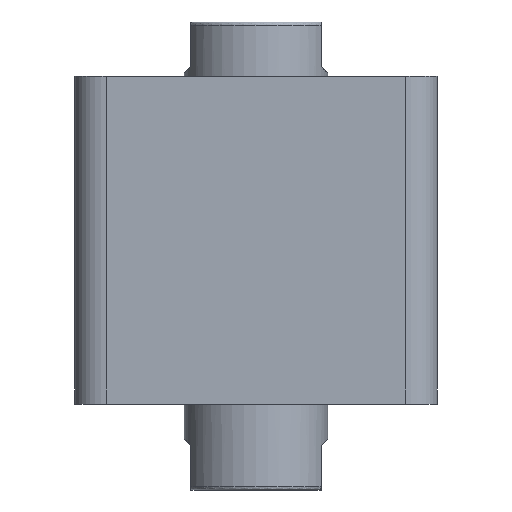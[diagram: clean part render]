
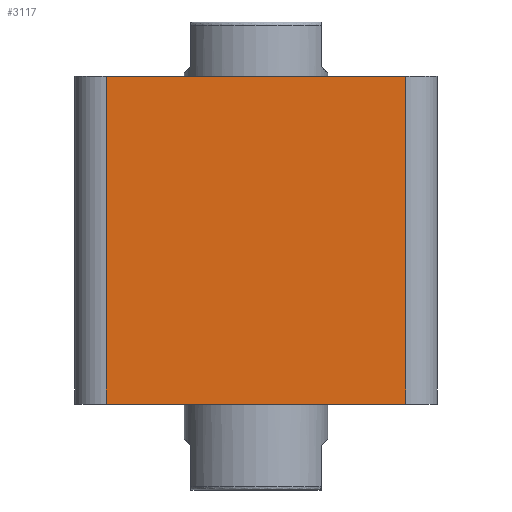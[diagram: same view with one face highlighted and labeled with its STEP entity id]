
A CAD part, front view. The second image highlights one B-rep face of the part: STEP entity #3117.
In plain terms, the highlighted planar face has unit normal (0, -1, 0).
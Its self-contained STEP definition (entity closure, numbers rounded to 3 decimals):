
#149 = EDGE_CURVE ( 'NONE', #1960, #1969, #2013, .T. ) ;
#150 = EDGE_CURVE ( 'NONE', #1969, #1957, #2014, .T. ) ;
#151 = EDGE_CURVE ( 'NONE', #1951, #1957, #2018, .T. ) ;
#152 = EDGE_CURVE ( 'NONE', #1951, #1960, #2020, .T. ) ;
#200 = CARTESIAN_POINT ( 'NONE',  ( -57., -57., 103. ) ) ;
#202 = PLANE ( 'NONE',  #1466 ) ;
#204 = DIRECTION ( 'NONE',  ( 0., 1., 0. ) ) ;
#205 = DIRECTION ( 'NONE',  ( 0., 0., 1. ) ) ;
#641 = CARTESIAN_POINT ( 'NONE',  ( -47., -57., 103. ) ) ;
#650 = CARTESIAN_POINT ( 'NONE',  ( 47., -57., 103. ) ) ;
#656 = CARTESIAN_POINT ( 'NONE',  ( -47., -57., 0. ) ) ;
#665 = CARTESIAN_POINT ( 'NONE',  ( 47., -57., 0. ) ) ;
#1128 = CARTESIAN_POINT ( 'NONE',  ( 47., -57., 103. ) ) ;
#1150 = DIRECTION ( 'NONE',  ( 0., 0., -1. ) ) ;
#1151 = CARTESIAN_POINT ( 'NONE',  ( -47., -57., 103. ) ) ;
#1152 = DIRECTION ( 'NONE',  ( 1., 0., 0. ) ) ;
#1153 = CARTESIAN_POINT ( 'NONE',  ( -57., -57., 103. ) ) ;
#1156 = DIRECTION ( 'NONE',  ( 0., 0., 1. ) ) ;
#1157 = DIRECTION ( 'NONE',  ( 1., 0., 0. ) ) ;
#1159 = CARTESIAN_POINT ( 'NONE',  ( -57., -57., 0. ) ) ;
#1466 = AXIS2_PLACEMENT_3D ( 'NONE', #200, #204, #205 ) ;
#1905 = EDGE_LOOP ( 'NONE', ( #2948, #2947, #2946, #2945 ) ) ;
#1951 = VERTEX_POINT ( 'NONE', #641 ) ;
#1957 = VERTEX_POINT ( 'NONE', #650 ) ;
#1960 = VERTEX_POINT ( 'NONE', #656 ) ;
#1969 = VERTEX_POINT ( 'NONE', #665 ) ;
#2013 = LINE ( 'NONE', #1159, #2017 ) ;
#2014 = LINE ( 'NONE', #1128, #2019 ) ;
#2017 = VECTOR ( 'NONE', #1157, 1000. ) ;
#2018 = LINE ( 'NONE', #1153, #2021 ) ;
#2019 = VECTOR ( 'NONE', #1156, 1000. ) ;
#2020 = LINE ( 'NONE', #1151, #2023 ) ;
#2021 = VECTOR ( 'NONE', #1152, 1000. ) ;
#2023 = VECTOR ( 'NONE', #1150, 1000. ) ;
#2303 = FACE_OUTER_BOUND ( 'NONE', #1905, .T. ) ;
#2945 = ORIENTED_EDGE ( 'NONE', *, *, #152, .T. ) ;
#2946 = ORIENTED_EDGE ( 'NONE', *, *, #151, .F. ) ;
#2947 = ORIENTED_EDGE ( 'NONE', *, *, #150, .T. ) ;
#2948 = ORIENTED_EDGE ( 'NONE', *, *, #149, .T. ) ;
#3117 = ADVANCED_FACE ( 'NONE', ( #2303 ), #202, .F. ) ;
